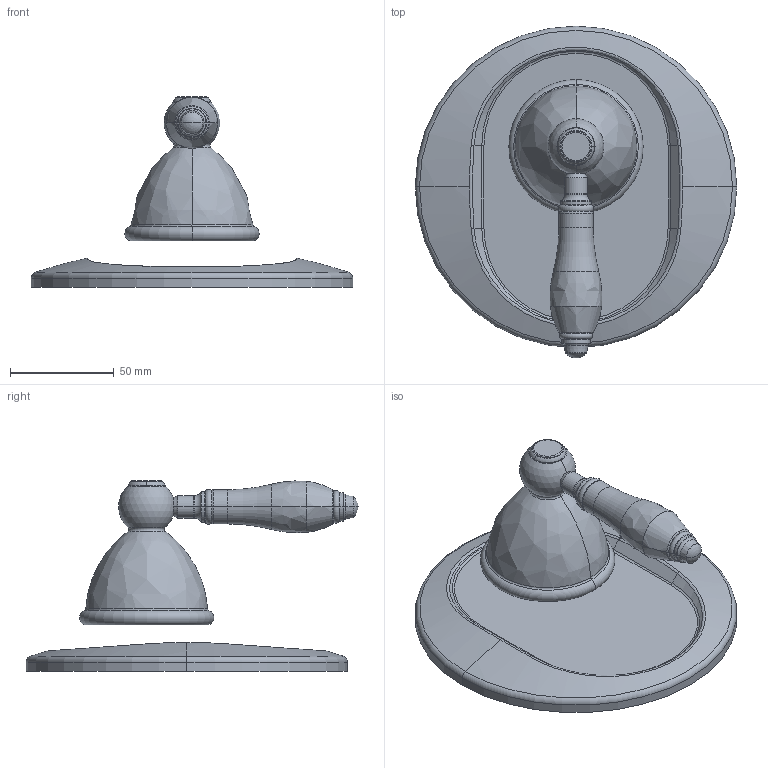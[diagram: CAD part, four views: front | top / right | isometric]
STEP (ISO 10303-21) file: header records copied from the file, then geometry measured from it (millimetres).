
FILE_DESCRIPTION((''),'2;1');
FILE_NAME('F5409_1_FILE_3D','2013-08-01T',('ivanv'),(''),'PRO/ENGINEER BY PARAMETRIC TECHNOLOGY CORPORATION, 2012130','PRO/ENGINEER BY PARAMETRIC TECHNOLOGY CORPORATION, 2012130','');
FILE_SCHEMA(('CONFIG_CONTROL_DESIGN'));
Length unit declared in the file: millimetre
Products named in the file (1): F5409_1_FILE_3D
Bounding box: 155 x 160.07 x 91.8 mm (x, y, z)
Volume: 287768.3 mm3; surface area: 62335.2 mm2
Topology: 3 solids, 3 shells, 126 faces, 259 edges, 141 vertices
Faces by surface type: torus 50, cylinder 26, cone 22, plane 14, bspline 8, sphere 6
Entity records: 4020 total; most frequent: CARTESIAN_POINT 1259, DIRECTION 680, ORIENTED_EDGE 506, AXIS2_PLACEMENT_3D 314, EDGE_CURVE 253, CIRCLE 195, VERTEX_POINT 141, EDGE_LOOP 134
